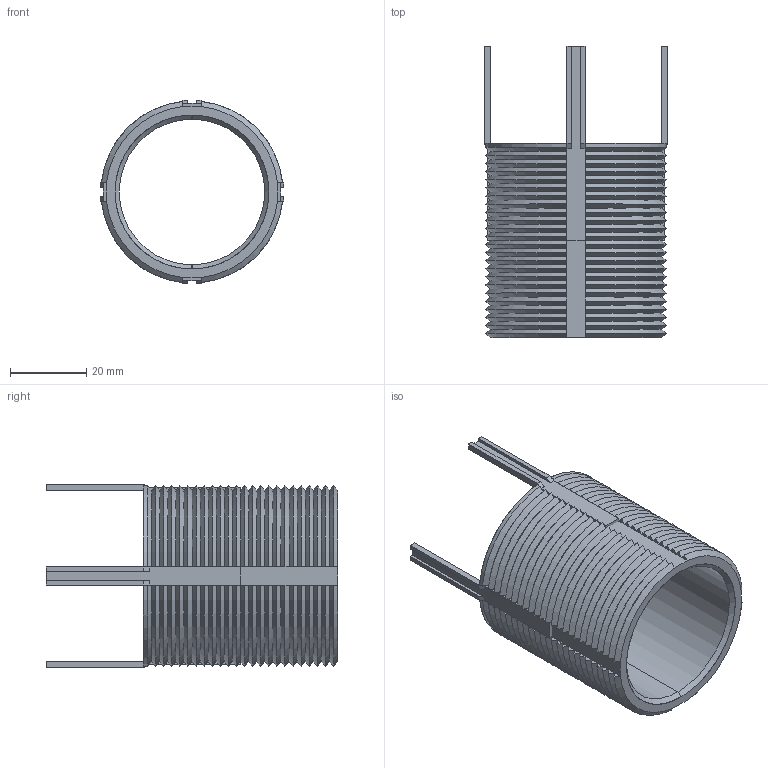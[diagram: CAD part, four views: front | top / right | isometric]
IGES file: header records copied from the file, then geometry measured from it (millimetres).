
Start section: SolidWorks IGES file using analytic representation for surfaces
Global section: file name: C:\Users\IanO\Desktop\TR1575\TR1575_v2_20230420_IGES\TR1575.66116.igs; native system: SolidWorks 2019; preprocessor: SolidWorks 2019; author: IanO; date: 230420.093639; units: inch
Bounding box: 48.12 x 76.2 x 48.12 mm (x, y, z)
Surface area: 21108.7 mm2 (no closed solid volume)
Topology: 0 solids, 0 shells, 444 faces, 2056 edges, 2056 vertices
Faces by surface type: bspline 246, revolution 198
